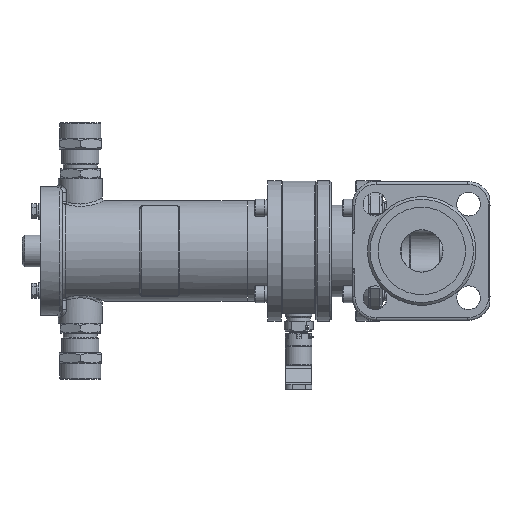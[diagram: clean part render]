
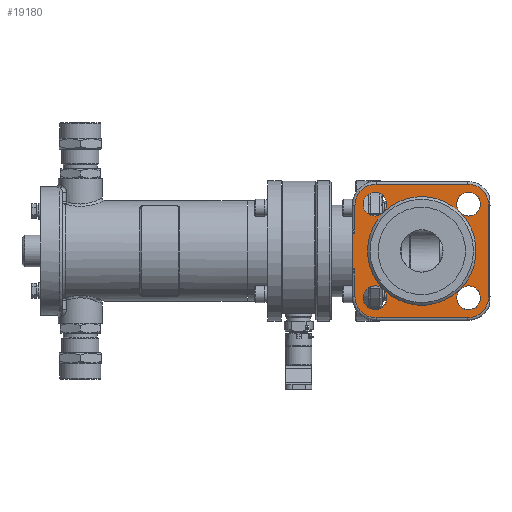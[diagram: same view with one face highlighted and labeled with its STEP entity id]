
A CAD part, left-side view. The second image highlights one B-rep face of the part: STEP entity #19180.
In plain terms, the highlighted planar face has unit normal (-1, 0, 0).
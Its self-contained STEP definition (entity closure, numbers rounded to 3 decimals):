
#19180=ADVANCED_FACE('',(#44295,#44297,#44299,#44301,#44303,#44305),#44307,.T.);
#44295=FACE_BOUND('',#44296,.T.);
#44296=EDGE_LOOP('',(#72404,#72405,#72406,#72407,#72408,#72409,#72410,#72411,#72412,
#72413,#72414,#72415));
#44297=FACE_BOUND('',#44298,.T.);
#44298=EDGE_LOOP('',(#72416,#72417));
#44299=FACE_BOUND('',#44300,.T.);
#44300=EDGE_LOOP('',(#72418,#72419));
#44301=FACE_BOUND('',#44302,.T.);
#44302=EDGE_LOOP('',(#72420));
#44303=FACE_BOUND('',#44304,.T.);
#44304=EDGE_LOOP('',(#72421,#72422,#72423,#72424));
#44305=FACE_BOUND('',#44306,.T.);
#44306=EDGE_LOOP('',(#72425,#72426));
#44307=PLANE('',#44308);
#44308=AXIS2_PLACEMENT_3D('',#44309,#44310,#44311);
#44309=CARTESIAN_POINT('',(-96.,0.,0.));
#44310=DIRECTION('',(-1.,0.,0.));
#44311=DIRECTION('',(0.,1.,0.));
#72404=ORIENTED_EDGE('',*,*,#84055,.T.);
#72405=ORIENTED_EDGE('',*,*,#84266,.T.);
#72406=ORIENTED_EDGE('',*,*,#84264,.T.);
#72407=ORIENTED_EDGE('',*,*,#84267,.T.);
#72408=ORIENTED_EDGE('',*,*,#84268,.T.);
#72409=ORIENTED_EDGE('',*,*,#84269,.T.);
#72410=ORIENTED_EDGE('',*,*,#84270,.T.);
#72411=ORIENTED_EDGE('',*,*,#84271,.T.);
#72412=ORIENTED_EDGE('',*,*,#84272,.T.);
#72413=ORIENTED_EDGE('',*,*,#84273,.T.);
#72414=ORIENTED_EDGE('',*,*,#84274,.T.);
#72415=ORIENTED_EDGE('',*,*,#84275,.F.);
#72416=ORIENTED_EDGE('',*,*,#84276,.T.);
#72417=ORIENTED_EDGE('',*,*,#84277,.T.);
#72418=ORIENTED_EDGE('',*,*,#84278,.T.);
#72419=ORIENTED_EDGE('',*,*,#84279,.T.);
#72420=ORIENTED_EDGE('',*,*,#84280,.T.);
#72421=ORIENTED_EDGE('',*,*,#84281,.T.);
#72422=ORIENTED_EDGE('',*,*,#84282,.T.);
#72423=ORIENTED_EDGE('',*,*,#84283,.T.);
#72424=ORIENTED_EDGE('',*,*,#84284,.T.);
#72425=ORIENTED_EDGE('',*,*,#84285,.T.);
#72426=ORIENTED_EDGE('',*,*,#84286,.T.);
#84055=EDGE_CURVE('',#97272,#97270,#97273,.F.);
#84264=EDGE_CURVE('',#97603,#97605,#97607,.T.);
#84266=EDGE_CURVE('',#97270,#97603,#97609,.T.);
#84267=EDGE_CURVE('',#97605,#97610,#97611,.T.);
#84268=EDGE_CURVE('',#97610,#97612,#97613,.T.);
#84269=EDGE_CURVE('',#97612,#97614,#97615,.T.);
#84270=EDGE_CURVE('',#97614,#97616,#97617,.T.);
#84271=EDGE_CURVE('',#97616,#97618,#97619,.T.);
#84272=EDGE_CURVE('',#97618,#97620,#97621,.T.);
#84273=EDGE_CURVE('',#97620,#97622,#97623,.T.);
#84274=EDGE_CURVE('',#97622,#97624,#97625,.T.);
#84275=EDGE_CURVE('',#97272,#97624,#97626,.T.);
#84276=EDGE_CURVE('',#97627,#97628,#97629,.F.);
#84277=EDGE_CURVE('',#97628,#97627,#97630,.F.);
#84278=EDGE_CURVE('',#97631,#97632,#97633,.F.);
#84279=EDGE_CURVE('',#97632,#97631,#97634,.F.);
#84280=EDGE_CURVE('',#97635,#97635,#97636,.F.);
#84281=EDGE_CURVE('',#97637,#97631,#97638,.T.);
#84282=EDGE_CURVE('',#97631,#97627,#97639,.T.);
#84283=EDGE_CURVE('',#97627,#97640,#97641,.T.);
#84284=EDGE_CURVE('',#97640,#97637,#97642,.T.);
#84285=EDGE_CURVE('',#97640,#97643,#97644,.F.);
#84286=EDGE_CURVE('',#97643,#97640,#97645,.F.);
#97270=VERTEX_POINT('',#132201);
#97272=VERTEX_POINT('',#132206);
#97273=LINE('',#132207,#132208);
#97603=VERTEX_POINT('',#133710);
#97605=VERTEX_POINT('',#133734);
#97607=LINE('',#133739,#133740);
#97609=LINE('',#133750,#133751);
#97610=VERTEX_POINT('',#133753);
#97611=CIRCLE('',#133754,16.);
#97612=VERTEX_POINT('',#133758);
#97613=LINE('',#133759,#133760);
#97614=VERTEX_POINT('',#133762);
#97615=CIRCLE('',#133763,16.);
#97616=VERTEX_POINT('',#133767);
#97617=LINE('',#133768,#133769);
#97618=VERTEX_POINT('',#133771);
#97619=CIRCLE('',#133772,16.);
#97620=VERTEX_POINT('',#133776);
#97621=LINE('',#133777,#133778);
#97622=VERTEX_POINT('',#133780);
#97623=CIRCLE('',#133781,16.);
#97624=VERTEX_POINT('',#133785);
#97625=LINE('',#133786,#133787);
#97626=LINE('',#133789,#133790);
#97627=VERTEX_POINT('',#133792);
#97628=VERTEX_POINT('',#133793);
#97629=CIRCLE('',#133794,9.);
#97630=CIRCLE('',#133798,9.);
#97631=VERTEX_POINT('',#133802);
#97632=VERTEX_POINT('',#133803);
#97633=CIRCLE('',#133804,9.);
#97634=CIRCLE('',#133808,9.);
#97635=VERTEX_POINT('',#133812);
#97636=CIRCLE('',#133813,9.);
#97637=VERTEX_POINT('',#133817);
#97638=CIRCLE('',#133818,41.);
#97639=CIRCLE('',#133822,41.);
#97640=VERTEX_POINT('',#133826);
#97641=CIRCLE('',#133827,41.);
#97642=CIRCLE('',#133831,41.);
#97643=VERTEX_POINT('',#133835);
#97644=CIRCLE('',#133836,9.);
#97645=CIRCLE('',#133840,9.);
#132201=CARTESIAN_POINT('',(-96.,52.5,-13.5));
#132206=CARTESIAN_POINT('',(-96.,52.5,13.5));
#132207=CARTESIAN_POINT('',(-96.,52.5,-13.5));
#132208=VECTOR('',#132209,1.);
#132209=DIRECTION('',(0.,0.,1.));
#133710=CARTESIAN_POINT('',(-96.,50.5,-13.5));
#133734=CARTESIAN_POINT('',(-96.,50.5,-34.5));
#133739=CARTESIAN_POINT('',(-96.,50.5,-13.5));
#133740=VECTOR('',#133741,1.);
#133741=DIRECTION('',(0.,0.,-1.));
#133750=CARTESIAN_POINT('',(-96.,52.5,-13.5));
#133751=VECTOR('',#133752,1.);
#133752=DIRECTION('',(0.,-1.,0.));
#133753=CARTESIAN_POINT('',(-96.,34.5,-50.5));
#133754=AXIS2_PLACEMENT_3D('',#133755,#133756,#133757);
#133755=CARTESIAN_POINT('',(-96.,34.5,-34.5));
#133756=DIRECTION('',(-1.,0.,0.));
#133757=DIRECTION('',(0.,1.,0.));
#133758=CARTESIAN_POINT('',(-96.,-34.5,-50.5));
#133759=CARTESIAN_POINT('',(-96.,34.5,-50.5));
#133760=VECTOR('',#133761,1.);
#133761=DIRECTION('',(0.,-1.,0.));
#133762=CARTESIAN_POINT('',(-96.,-50.5,-34.5));
#133763=AXIS2_PLACEMENT_3D('',#133764,#133765,#133766);
#133764=CARTESIAN_POINT('',(-96.,-34.5,-34.5));
#133765=DIRECTION('',(-1.,0.,0.));
#133766=DIRECTION('',(0.,0.,-1.));
#133767=CARTESIAN_POINT('',(-96.,-50.5,34.5));
#133768=CARTESIAN_POINT('',(-96.,-50.5,-34.5));
#133769=VECTOR('',#133770,1.);
#133770=DIRECTION('',(0.,0.,1.));
#133771=CARTESIAN_POINT('',(-96.,-34.5,50.5));
#133772=AXIS2_PLACEMENT_3D('',#133773,#133774,#133775);
#133773=CARTESIAN_POINT('',(-96.,-34.5,34.5));
#133774=DIRECTION('',(-1.,0.,0.));
#133775=DIRECTION('',(0.,-1.,0.));
#133776=CARTESIAN_POINT('',(-96.,34.5,50.5));
#133777=CARTESIAN_POINT('',(-96.,-34.5,50.5));
#133778=VECTOR('',#133779,1.);
#133779=DIRECTION('',(0.,1.,0.));
#133780=CARTESIAN_POINT('',(-96.,50.5,34.5));
#133781=AXIS2_PLACEMENT_3D('',#133782,#133783,#133784);
#133782=CARTESIAN_POINT('',(-96.,34.5,34.5));
#133783=DIRECTION('',(-1.,0.,0.));
#133784=DIRECTION('',(0.,0.,1.));
#133785=CARTESIAN_POINT('',(-96.,50.5,13.5));
#133786=CARTESIAN_POINT('',(-96.,50.5,34.5));
#133787=VECTOR('',#133788,1.);
#133788=DIRECTION('',(0.,0.,-1.));
#133789=CARTESIAN_POINT('',(-96.,52.5,13.5));
#133790=VECTOR('',#133791,1.);
#133791=DIRECTION('',(0.,-1.,0.));
#133792=CARTESIAN_POINT('',(-96.,-28.991,28.991));
#133793=CARTESIAN_POINT('',(-96.,-35.355,26.355));
#133794=AXIS2_PLACEMENT_3D('',#133795,#133796,#133797);
#133795=CARTESIAN_POINT('',(-96.,-35.355,35.355));
#133796=DIRECTION('',(-1.,0.,0.));
#133797=DIRECTION('',(0.,0.,-1.));
#133798=AXIS2_PLACEMENT_3D('',#133799,#133800,#133801);
#133799=CARTESIAN_POINT('',(-96.,-35.355,35.355));
#133800=DIRECTION('',(-1.,0.,0.));
#133801=DIRECTION('',(0.,0.707,-0.707));
#133802=CARTESIAN_POINT('',(-96.,28.991,28.991));
#133803=CARTESIAN_POINT('',(-96.,35.355,26.355));
#133804=AXIS2_PLACEMENT_3D('',#133805,#133806,#133807);
#133805=CARTESIAN_POINT('',(-96.,35.355,35.355));
#133806=DIRECTION('',(-1.,0.,0.));
#133807=DIRECTION('',(0.,0.,-1.));
#133808=AXIS2_PLACEMENT_3D('',#133809,#133810,#133811);
#133809=CARTESIAN_POINT('',(-96.,35.355,35.355));
#133810=DIRECTION('',(-1.,0.,0.));
#133811=DIRECTION('',(0.,-0.707,-0.707));
#133812=CARTESIAN_POINT('',(-96.,35.355,-44.355));
#133813=AXIS2_PLACEMENT_3D('',#133814,#133815,#133816);
#133814=CARTESIAN_POINT('',(-96.,35.355,-35.355));
#133815=DIRECTION('',(-1.,0.,0.));
#133816=DIRECTION('',(0.,0.,-1.));
#133817=CARTESIAN_POINT('',(-96.,41.,0.));
#133818=AXIS2_PLACEMENT_3D('',#133819,#133820,#133821);
#133819=CARTESIAN_POINT('',(-96.,0.,0.));
#133820=DIRECTION('',(1.,0.,0.));
#133821=DIRECTION('',(0.,1.,0.));
#133822=AXIS2_PLACEMENT_3D('',#133823,#133824,#133825);
#133823=CARTESIAN_POINT('',(-96.,0.,0.));
#133824=DIRECTION('',(1.,0.,0.));
#133825=DIRECTION('',(0.,0.707,0.707));
#133826=CARTESIAN_POINT('',(-96.,-28.991,-28.991));
#133827=AXIS2_PLACEMENT_3D('',#133828,#133829,#133830);
#133828=CARTESIAN_POINT('',(-96.,0.,0.));
#133829=DIRECTION('',(1.,0.,0.));
#133830=DIRECTION('',(0.,-0.707,0.707));
#133831=AXIS2_PLACEMENT_3D('',#133832,#133833,#133834);
#133832=CARTESIAN_POINT('',(-96.,0.,0.));
#133833=DIRECTION('',(1.,0.,0.));
#133834=DIRECTION('',(0.,-0.707,-0.707));
#133835=CARTESIAN_POINT('',(-96.,-35.355,-44.355));
#133836=AXIS2_PLACEMENT_3D('',#133837,#133838,#133839);
#133837=CARTESIAN_POINT('',(-96.,-35.355,-35.355));
#133838=DIRECTION('',(-1.,0.,0.));
#133839=DIRECTION('',(0.,0.,-1.));
#133840=AXIS2_PLACEMENT_3D('',#133841,#133842,#133843);
#133841=CARTESIAN_POINT('',(-96.,-35.355,-35.355));
#133842=DIRECTION('',(-1.,0.,0.));
#133843=DIRECTION('',(0.,0.707,0.707));
